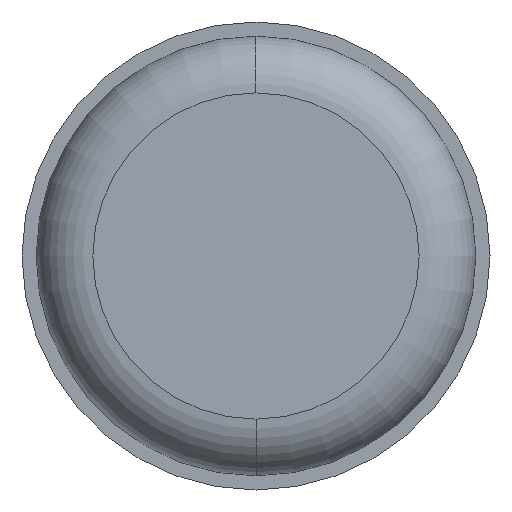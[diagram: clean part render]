
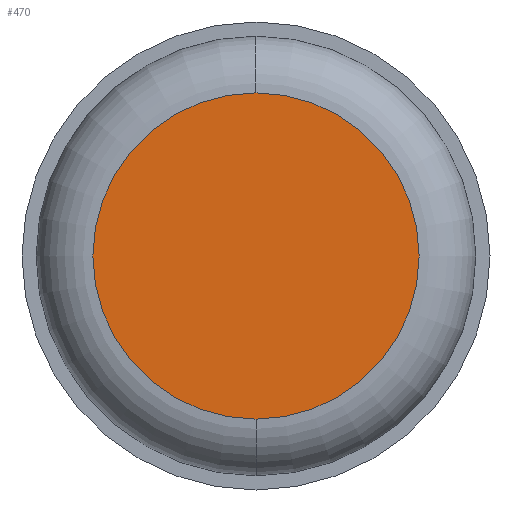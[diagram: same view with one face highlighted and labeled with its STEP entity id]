
A CAD part, left-side view. The second image highlights one B-rep face of the part: STEP entity #470.
In plain terms, the highlighted planar face has unit normal (-1, 0, 0).
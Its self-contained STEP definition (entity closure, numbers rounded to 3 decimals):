
#25 = VERTEX_POINT ( 'NONE', #178 ) ;
#30 = VERTEX_POINT ( 'NONE', #185 ) ;
#65 = EDGE_LOOP ( 'NONE', ( #132, #133 ) ) ;
#132 = ORIENTED_EDGE ( 'NONE', *, *, #447, .F. ) ;
#133 = ORIENTED_EDGE ( 'NONE', *, *, #445, .F. ) ;
#178 = CARTESIAN_POINT ( 'NONE',  ( -14., 0., 2.875 ) ) ;
#185 = CARTESIAN_POINT ( 'NONE',  ( -14., 0., -2.875 ) ) ;
#258 = CARTESIAN_POINT ( 'NONE',  ( -14., 0., 0. ) ) ;
#259 = DIRECTION ( 'NONE',  ( 1., 0., 0. ) ) ;
#260 = DIRECTION ( 'NONE',  ( 0., 0., -1. ) ) ;
#264 = CARTESIAN_POINT ( 'NONE',  ( -14., 0., 0. ) ) ;
#265 = DIRECTION ( 'NONE',  ( 1., 0., 0. ) ) ;
#266 = DIRECTION ( 'NONE',  ( 0., 0., -1. ) ) ;
#361 = CARTESIAN_POINT ( 'NONE',  ( -14., 2.875, 0. ) ) ;
#362 = FACE_OUTER_BOUND ( 'NONE', #65, .T. ) ;
#364 = PLANE ( 'NONE',  #499 ) ;
#365 = DIRECTION ( 'NONE',  ( -1., 0., 0. ) ) ;
#366 = DIRECTION ( 'NONE',  ( 0., 0., 1. ) ) ;
#445 = EDGE_CURVE ( 'NONE', #25, #30, #514, .T. ) ;
#447 = EDGE_CURVE ( 'NONE', #30, #25, #516, .T. ) ;
#470 = ADVANCED_FACE ( 'NONE', ( #362 ), #364, .T. ) ;
#499 = AXIS2_PLACEMENT_3D ( 'NONE', #361, #365, #366 ) ;
#514 = CIRCLE ( 'NONE', #517, 2.875 ) ;
#516 = CIRCLE ( 'NONE', #520, 2.875 ) ;
#517 = AXIS2_PLACEMENT_3D ( 'NONE', #258, #259, #260 ) ;
#520 = AXIS2_PLACEMENT_3D ( 'NONE', #264, #265, #266 ) ;
